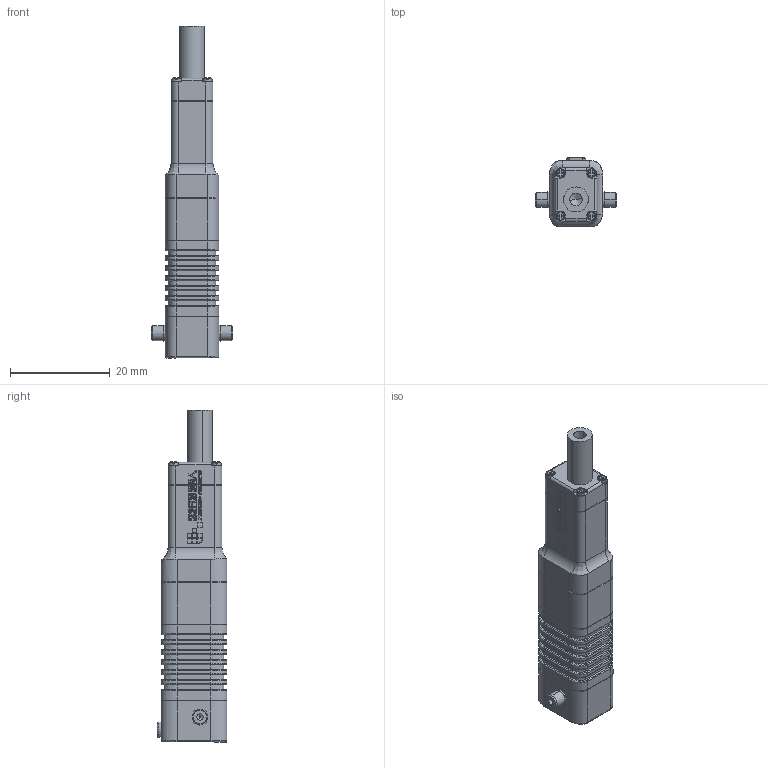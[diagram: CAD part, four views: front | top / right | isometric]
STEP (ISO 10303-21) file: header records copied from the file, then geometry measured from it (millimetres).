
FILE_DESCRIPTION (( 'STEP AP214' ), '1' );
FILE_NAME ('LA10-0x2D.STEP', '2022-12-06T09:42:16', ( '' ), ( '' ), '', '', '' );
FILE_SCHEMA (( 'AUTOMOTIVE_DESIGN' ));
Length unit declared in the file: millimetre
Products named in the file (3): exA820109-015祥凄詩杶奪_1; exA820109-001熬厒眊俋褲_1; LA10-0x2D
Assembly tree (2 placements, depth 2):
  LA10-0x2D
    exA820109-001熬厒眊俋褲_1
    exA820109-015祥凄詩杶奪_1
Bounding box: 16.4 x 14 x 66.5 mm (x, y, z)
Volume: 6319 mm3; surface area: 4023.8 mm2
Topology: 2 solids, 7 shells, 1674 faces, 4361 edges, 2827 vertices
Faces by surface type: plane 861, bspline 587, cylinder 180, cone 46
Entity records: 72918 total; most frequent: CARTESIAN_POINT 27724, ORIENTED_EDGE 8710, DIRECTION 5904, EDGE_CURVE 4355, VERTEX_POINT 2827, VECTOR 2782, LINE 2782, EDGE_LOOP 1816
